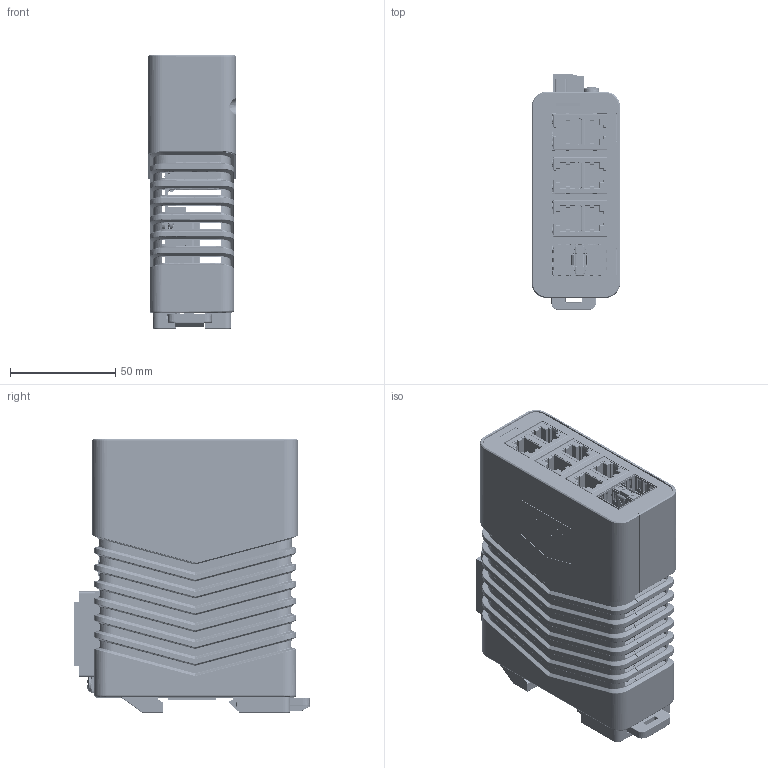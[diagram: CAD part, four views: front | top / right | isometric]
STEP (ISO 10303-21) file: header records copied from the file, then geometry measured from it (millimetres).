
FILE_DESCRIPTION (( 'STEP AP214' ), '1' );
FILE_NAME ('NT5008-DM2.STEP', '2023-01-23T21:29:37', ( '' ), ( '' ), 'SwSTEP 2.0', 'SolidWorks 2022', '' );
FILE_SCHEMA (( 'AUTOMOTIVE_DESIGN' ));
Length unit declared in the file: millimetre
Products named in the file (23): 5008-DM2 Core Board; overlay front narrow 6RJ spacing_6RJs + SFP; 11616_thin; HWSMCZ08_95345A426; 10778; 10783; 11705_ cutouts concept wide; 11612; 11618; 11610; 11071; LOGO Sticker; 11820_95345A444; 10670; NT5008-DM2; 11821; 11702_11702; 11836; label bulkhead; NPTP0061; 11705; 96439A130_18-8 SS PRESS-FIT NUT FOR SHEET METAL_96439A130; 3_85 MASTER PART FILE
Assembly tree (35 placements, depth 3):
  NT5008-DM2
    11610
    11612
    11616_thin
    11618
    11702_11702
    11705
      11705_ cutouts concept wide
      96439A130_18-8 SS PRESS-FIT NUT FOR SHEET METAL_96439A130  x2
    HWSMCZ08_95345A426  x9
    11820_95345A444  x4
    11821
    11836  x2
    10778
    10670
    overlay front narrow 6RJ spacing_6RJs + SFP
    label bulkhead
    LOGO Sticker
    NPTP0061
    5008-DM2 Core Board
    11071
    10783  x2
  3_85 MASTER PART FILE
Bounding box: 42.04 x 111.86 x 129.79 mm (x, y, z)
Volume: 170410.1 mm3; surface area: 163377 mm2
Topology: 53 solids, 55 shells, 11720 faces, 31678 edges, 20210 vertices
Faces by surface type: plane 5515, cylinder 3749, bspline 1602, cone 440, torus 258, sphere 156
Entity records: 411674 total; most frequent: CARTESIAN_POINT 120962, ORIENTED_EDGE 50024, DIRECTION 43929, EDGE_CURVE 25022, VERTEX_POINT 16078, LINE 15373, VECTOR 15373, AXIS2_PLACEMENT_3D 14278
